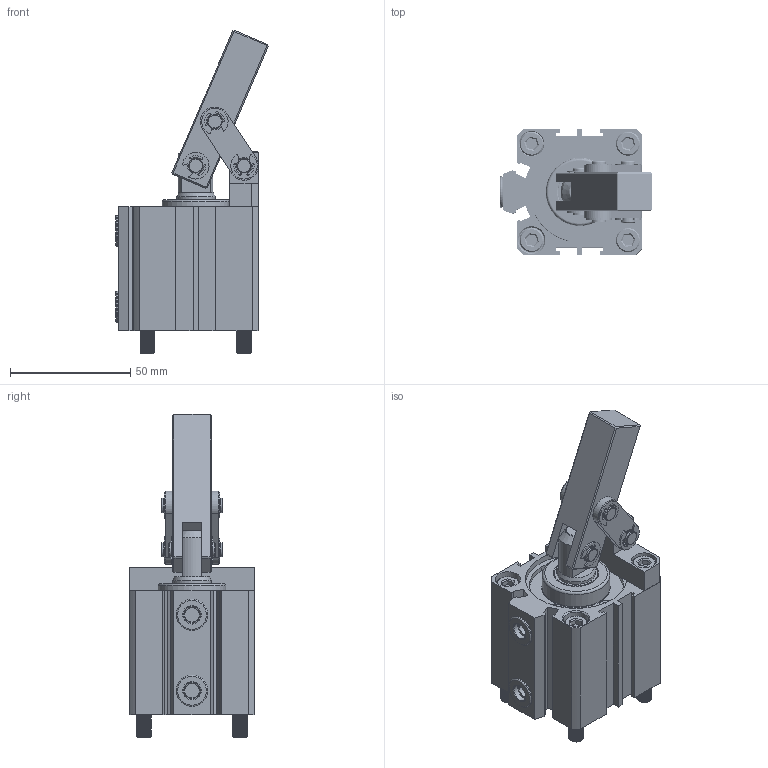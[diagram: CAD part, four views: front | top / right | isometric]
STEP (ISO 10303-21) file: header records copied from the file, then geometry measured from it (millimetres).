
FILE_DESCRIPTION(/* description */ ('STEP AP203'),/* implementation_level */ '2;1');
FILE_NAME(/* name */ 'E:\SERWER_ZAPAS\Pneumatic\CALC PNEUMATIC LEVERAGE BEZ MS\CALC-40\CALC-40_OTWARTY.stp',/* time_stamp */ '2019-02-07T10:54:10+01:00',/* author */ ('Admin'),/* organization */ ('Î¢ÈíÖÐ¹ú'),/* preprocessor_version */ 'ST-DEVELOPER v17.2',/* originating_system */ 'Autodesk Inventor 2019',/* authorisation */ '');
FILE_SCHEMA (('AUTOMOTIVE_DESIGN { 1 0 10303 214 3 1 1 }'));
Products named in the file (17): CALC-40_OTWARTY; »îÈû¸Ë; »îÈû; 40±¾Ìå22; ¸ÖÌ×; ºó¸Ç; Ç°¸Ç; ¶ÌÖá; M60002; ³¤Öá; ¸´¼þ ¿¨33; 1-8¶ÂÍ·MS40; MS40Ñ¹±Û; Á¬¸Ë; ¿ªÊ¼; 4556ºÃ; ¸´¼þ M60002
Assembly tree (27 placements, depth 2):
  CALC-40_OTWARTY
    1-8¶ÂÍ·MS40  x2
    »îÈû¸Ë
    M60002  x2
    ¿ªÊ¼  x6
    »îÈû
    40±¾Ìå22
    ¸ÖÌ×
    ¸´¼þ ¿¨33  x2
    ³¤Öá  x2
    ºó¸Ç
    Ç°¸Ç
    ¶ÌÖá
    ¸´¼þ M60002  x2
    Á¬¸Ë  x2
    MS40Ñ¹±Û
    4556ºÃ
Bounding box: 63.26 x 52 x 134.25 mm (x, y, z)
Volume: 119686.4 mm3; surface area: 72543.5 mm2
Topology: 27 solids, 27 shells, 858 faces, 2370 edges, 1625 vertices
Faces by surface type: cylinder 417, plane 319, cone 54, torus 49, bspline 19
Full cylindrical faces by diameter (mm): 1.705 x1, 2 x1, 2.45 x4, 5.2 x2, 5.202 x4, 6 x206, 6.8 x6, 7 x4, 8.2 x11, 8.7 x2, 10 x5, 10.5 x7, 12 x1, 13 x2, 16 x3, 17.2 x1, 18 x2, 20 x2, 23.5 x1, 25 x1, 26 x1, 28 x1, 29 x1, 32 x1, 33 x2, 35 x2, 38.4 x1, 38.8 x1, 39.5 x2, 40 x1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
Entity records: 41967 total; most frequent: CARTESIAN_POINT 27246, ORIENTED_EDGE 2980, DIRECTION 2959, EDGE_CURVE 1490, AXIS2_PLACEMENT_3D 1158, VERTEX_POINT 1031, LINE 643, VECTOR 643
